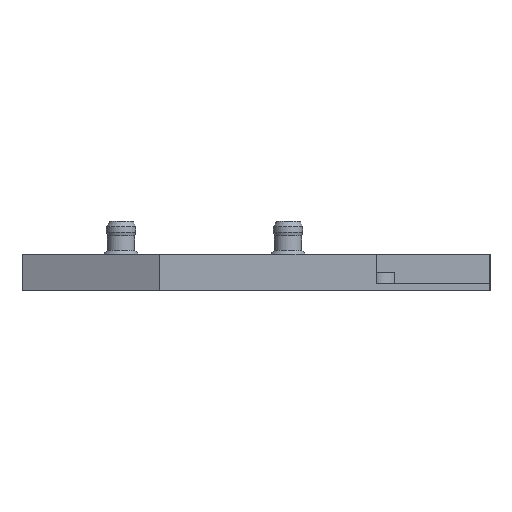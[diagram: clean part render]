
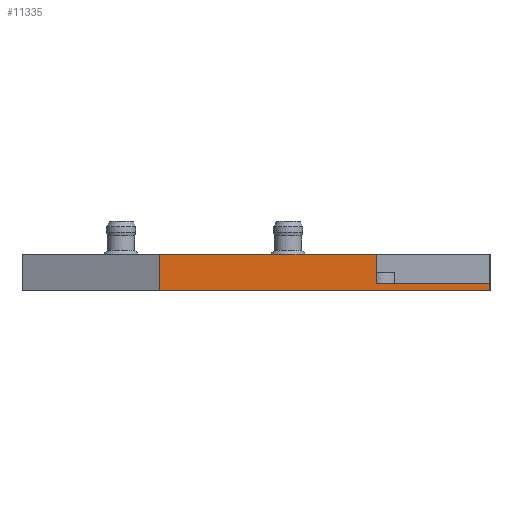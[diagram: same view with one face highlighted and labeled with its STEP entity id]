
A CAD part, left-side view. The second image highlights one B-rep face of the part: STEP entity #11335.
In plain terms, the highlighted planar face has unit normal (-1, 0, 0).
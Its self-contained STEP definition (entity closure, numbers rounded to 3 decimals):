
#642 = AXIS2_PLACEMENT_3D ( 'NONE', #10151, #3924, #6433 ) ;
#987 = DIRECTION ( 'NONE',  ( 0., 0., 1. ) ) ;
#1382 = ORIENTED_EDGE ( 'NONE', *, *, #5791, .T. ) ;
#1626 = EDGE_CURVE ( 'NONE', #11372, #12920, #6819, .T. ) ;
#1634 = DIRECTION ( 'NONE',  ( 0., -1., 0. ) ) ;
#2969 = VERTEX_POINT ( 'NONE', #7064 ) ;
#3399 = CARTESIAN_POINT ( 'NONE',  ( -35.738, -8.798, 0.4 ) ) ;
#3776 = EDGE_CURVE ( 'NONE', #12489, #11506, #4609, .T. ) ;
#3804 = CARTESIAN_POINT ( 'NONE',  ( -35.738, -14.998, 0.4 ) ) ;
#3924 = DIRECTION ( 'NONE',  ( 1., 0., 0. ) ) ;
#3931 = DIRECTION ( 'NONE',  ( 0., 0., -1. ) ) ;
#4103 = DIRECTION ( 'NONE',  ( 0., 0., -1. ) ) ;
#4609 = LINE ( 'NONE', #8953, #11508 ) ;
#5521 = EDGE_CURVE ( 'NONE', #11372, #7385, #8205, .T. ) ;
#5791 = EDGE_CURVE ( 'NONE', #12920, #2969, #13478, .T. ) ;
#6341 = CARTESIAN_POINT ( 'NONE',  ( -35.738, 3.002, 2. ) ) ;
#6433 = DIRECTION ( 'NONE',  ( 0., 0., -1. ) ) ;
#6663 = EDGE_CURVE ( 'NONE', #11506, #2969, #14767, .T. ) ;
#6713 = ORIENTED_EDGE ( 'NONE', *, *, #1626, .T. ) ;
#6722 = LINE ( 'NONE', #14982, #14934 ) ;
#6819 = LINE ( 'NONE', #6341, #9006 ) ;
#7064 = CARTESIAN_POINT ( 'NONE',  ( -35.738, -14.998, 0. ) ) ;
#7079 = EDGE_CURVE ( 'NONE', #12489, #7385, #6722, .T. ) ;
#7385 = VERTEX_POINT ( 'NONE', #13424 ) ;
#7531 = CARTESIAN_POINT ( 'NONE',  ( -35.738, -14.998, 2. ) ) ;
#7841 = VECTOR ( 'NONE', #8218, 1000. ) ;
#8205 = LINE ( 'NONE', #11674, #7841 ) ;
#8218 = DIRECTION ( 'NONE',  ( 0., -1., 0. ) ) ;
#8686 = CARTESIAN_POINT ( 'NONE',  ( -35.738, 0., 0. ) ) ;
#8736 = PLANE ( 'NONE',  #642 ) ;
#8953 = CARTESIAN_POINT ( 'NONE',  ( -35.738, -8.798, 0.4 ) ) ;
#9000 = DIRECTION ( 'NONE',  ( 0., -1., 0. ) ) ;
#9006 = VECTOR ( 'NONE', #3931, 1000. ) ;
#9459 = ORIENTED_EDGE ( 'NONE', *, *, #3776, .F. ) ;
#10137 = ORIENTED_EDGE ( 'NONE', *, *, #5521, .F. ) ;
#10151 = CARTESIAN_POINT ( 'NONE',  ( -35.738, 0., 2. ) ) ;
#10510 = ORIENTED_EDGE ( 'NONE', *, *, #7079, .T. ) ;
#11166 = EDGE_LOOP ( 'NONE', ( #9459, #10510, #10137, #6713, #1382, #13646 ) ) ;
#11169 = CARTESIAN_POINT ( 'NONE',  ( -35.738, 3.002, 0. ) ) ;
#11335 = ADVANCED_FACE ( 'NONE', ( #11384 ), #8736, .F. ) ;
#11372 = VERTEX_POINT ( 'NONE', #14513 ) ;
#11384 = FACE_OUTER_BOUND ( 'NONE', #11166, .T. ) ;
#11506 = VERTEX_POINT ( 'NONE', #3804 ) ;
#11508 = VECTOR ( 'NONE', #9000, 1000. ) ;
#11628 = VECTOR ( 'NONE', #4103, 1000. ) ;
#11674 = CARTESIAN_POINT ( 'NONE',  ( -35.738, 0., 2. ) ) ;
#12009 = VECTOR ( 'NONE', #1634, 1000. ) ;
#12489 = VERTEX_POINT ( 'NONE', #3399 ) ;
#12920 = VERTEX_POINT ( 'NONE', #11169 ) ;
#13424 = CARTESIAN_POINT ( 'NONE',  ( -35.738, -8.798, 2. ) ) ;
#13478 = LINE ( 'NONE', #8686, #12009 ) ;
#13646 = ORIENTED_EDGE ( 'NONE', *, *, #6663, .F. ) ;
#14513 = CARTESIAN_POINT ( 'NONE',  ( -35.738, 3.002, 2. ) ) ;
#14767 = LINE ( 'NONE', #7531, #11628 ) ;
#14934 = VECTOR ( 'NONE', #987, 1000. ) ;
#14982 = CARTESIAN_POINT ( 'NONE',  ( -35.738, -8.798, 0.4 ) ) ;
